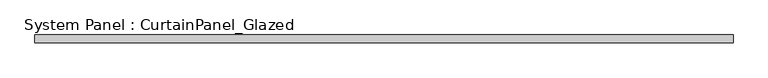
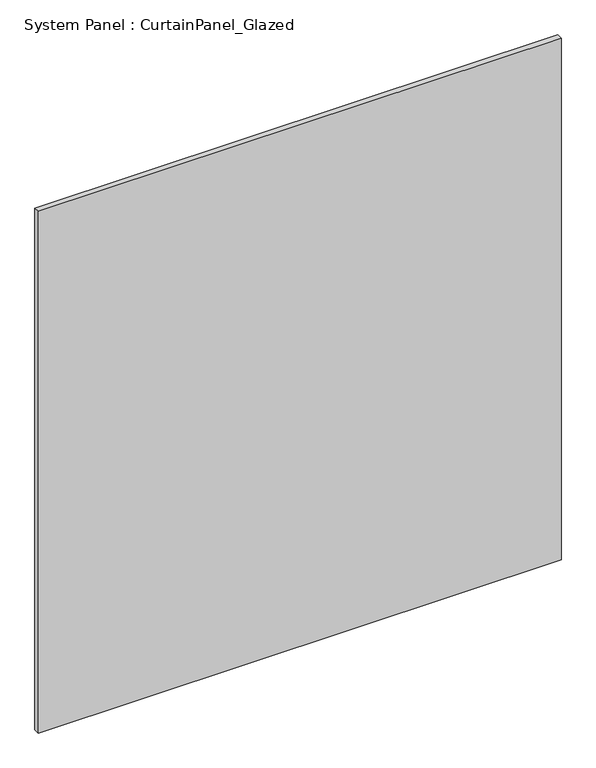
"""IFC4 building model written with IfcOpenShell, lengths in millimetres: plate geometry, System Panel : CurtainPanel_Glazed."""

from ifc_helpers import new_model, si_unit, origin, origin_with_axes, place, context, project, spatial, polyline, outline, extrude, source, transform, mapped, element, save


def system_panel_curtainpanel_glazed_2a823346(model_context):
    return source(origin(), model_context, "Body", "SweptSolid", [
        extrude(outline(polyline([(1113.6000001, -12.5), (-1113.6000001, -12.5), (-1113.6000001, 12.5), (1113.6000001, 12.5), (1113.6000001, -12.5)])), origin_with_axes(), (0.0, 0.0, 1.0), 2350.0),
    ])


if __name__ == "__main__":
    model = new_model("IFC4")
    model_context = context("Model", 3, world=origin())
    ifc_project = project(units=[si_unit("LENGTHUNIT", "METRE", prefix="MILLI")], contexts=[model_context])
    site = spatial("IfcSite", under=ifc_project)
    building = spatial("IfcBuilding", under=site)
    placement = place(None, origin())
    system_panel_curtainpanel_glazed_shape = system_panel_curtainpanel_glazed_2a823346(model_context)
    element("IfcPlate", 1, ObjectType="System Panel : CurtainPanel_Glazed", at=placement, inside=building, context=model_context, shape_type="MappedRepresentation", body=[
        mapped(system_panel_curtainpanel_glazed_shape, transform((0.0, 0.0, 0.0), x_axis=(1.0, 0.0, 0.0), y_axis=(0.0, 1.0, 0.0), z_axis=(0.0, 0.0, 1.0))),
    ])
    save(model, "model.ifc")
